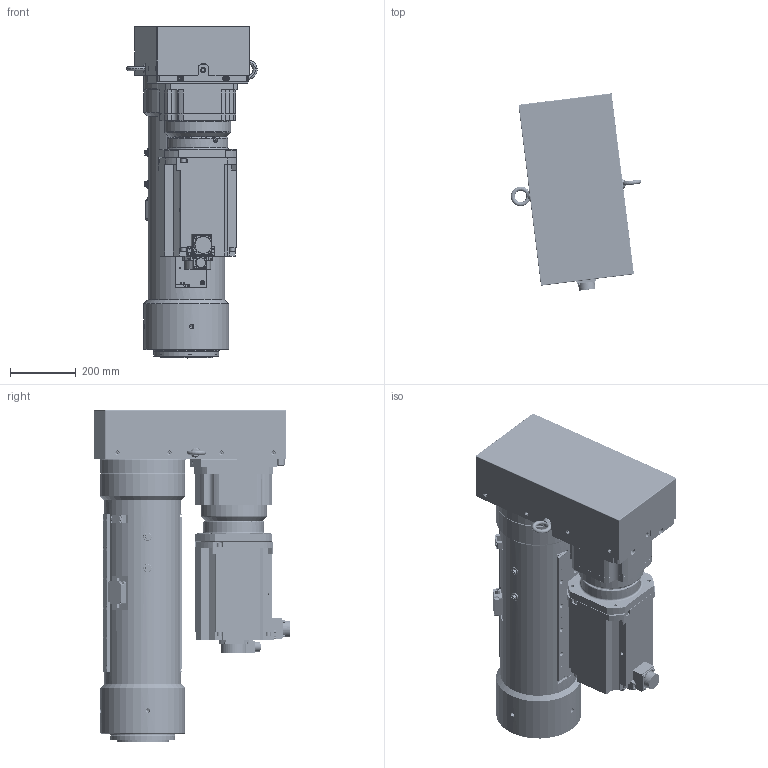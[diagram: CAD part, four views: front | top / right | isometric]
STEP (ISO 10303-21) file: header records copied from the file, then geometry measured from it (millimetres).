
FILE_DESCRIPTION( ('This file contains a STEP AP42 implementation' ,'as created by ZW3D STEP Interface translator.') ,'2;1' );
FILE_NAME( 'OACIS-DC-P200-400-120_V20.01.stp' ,'25 3 8.1016 6', (''), ('ZWCAD Software Co.'), 'Version 1.0', 'ZW3D to STEP translator', '' );
FILE_SCHEMA(('AUTOMOTIVE_DESIGN { 1 0 10303 214 1 1 1 1 }'));
Length unit declared in the file: millimetre
Products named in the file (2): 0; OACIS-DC-P200-400-120_V20.01
Bounding box: 397.87 x 601.2 x 1013.26 mm (x, y, z)
Volume: 66373547.5 mm3; surface area: 5033144.3 mm2
Topology: 26 solids, 53 shells, 2295 faces, 5733 edges, 3634 vertices
Faces by surface type: cylinder 954, plane 861, cone 368, torus 71, bspline 38, sphere 3
Full cylindrical faces by diameter (mm): 4 x6, 4.2 x36, 4.3 x11, 4.5 x4, 5 x24, 5.3 x6, 5.5 x6, 6 x12, 6.4 x22, 6.8 x34, 8 x4, 8.5 x12, 9 x2, 10 x8, 10.2 x24, 10.5 x4, 12 x1, 13 x30, 14 x71, 16 x2, 16.5 x4, 17.5 x24, 18 x6, 20 x12, 25.4 x2, 30 x2, 35 x2, 85 x1, 87 x1, 100 x1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
Entity records: 92205 total; most frequent: CARTESIAN_POINT 35183, DIRECTION 11108, ORIENTED_EDGE 11084, EDGE_CURVE 5578, AXIS2_PLACEMENT_3D 4091, VERTEX_POINT 3632, VECTOR 2926, LINE 2926
